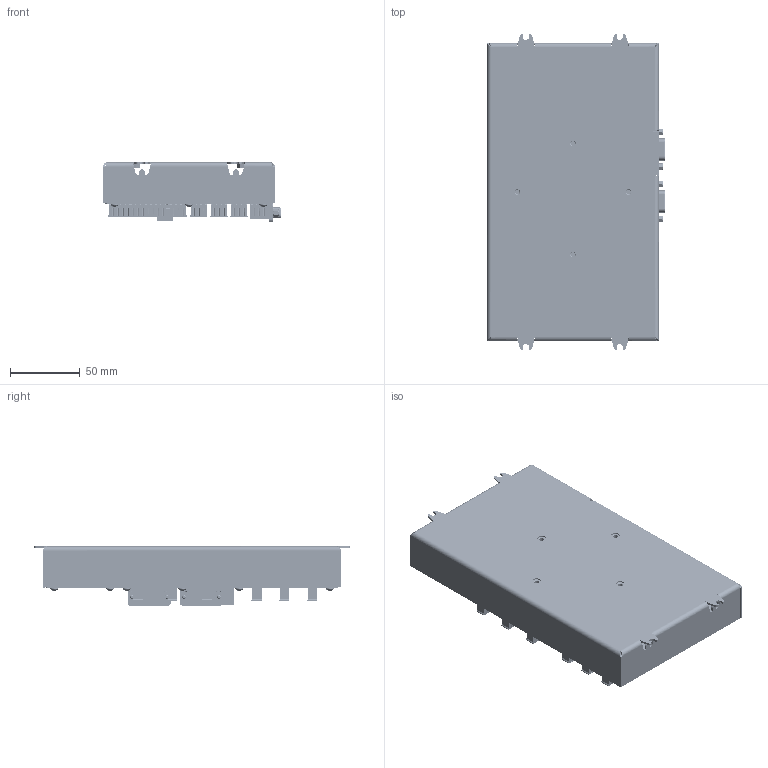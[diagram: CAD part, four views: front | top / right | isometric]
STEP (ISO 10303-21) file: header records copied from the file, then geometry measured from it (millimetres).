
FILE_DESCRIPTION (( 'STEP AP214' ), '1' );
FILE_NAME ('TIOB02_RevC2.step', '2013-02-28T10:01:38', ( '' ), ( '' ), 'SwSTEP 2.0', 'SolidWorks 2010', '' );
FILE_SCHEMA (( 'AUTOMOTIVE_DESIGN' ));
Length unit declared in the file: millimetre
Products named in the file (20): TIOB01_PCB; TIOB01-PCB; Con-Hdr-3_5-2; Con-B2B-Tyco-FH-0_8-60-H11; Diode-LED-Osram-P47; Con-Hdr-2-5-V; Con-Hdr-3_5-3; con-db-15hd-f-90d; TIOC; TIOC_PCB; Diode-LED-BiCol-90d-3x2; con-hdr-5-2-90d; con-lan-2rj45-2led; Extruded_3; TIOB01_Gehaeuse; Socket Button Head Screw_ISO_ISO 7380 - M3 x 6 --- 6N; Abstandsbolzen-I-A-UNC4-40x4.8-6.9; Weld nut 01_DIN_DIN 929-M4-N; Flush Stud_PMM_PEM FH4-M3-6 ---N; TIOB02_RevC2
Assembly tree (119 placements, depth 3):
  TIOB02_RevC2
    Socket Button Head Screw_ISO_ISO 7380 - M3 x 6 --- 6N  x15
    Flush Stud_PMM_PEM FH4-M3-6 ---N  x11
    Weld nut 01_DIN_DIN 929-M4-N  x4
    Abstandsbolzen-I-A-UNC4-40x4.8-6.9  x4
    TIOB01_PCB
      Diode-LED-Osram-P47  x38
      Con-Hdr-3_5-2  x8
      Con-Hdr-3_5-3  x24
      con-db-15hd-f-90d  x2
      Con-B2B-Tyco-FH-0_8-60-H11  x2
      TIOB01-PCB
      Con-Hdr-2-5-V
    TIOB01_Gehaeuse
    TIOC
      con-hdr-5-2-90d
      Diode-LED-BiCol-90d-3x2
      TIOC_PCB
      Extruded_3  x2
      con-lan-2rj45-2led
Bounding box: 127.83 x 227 x 42.56 mm (x, y, z)
Volume: 149841.2 mm3; surface area: 210161.9 mm2
Topology: 121 solids, 159 shells, 20915 faces, 56215 edges, 36439 vertices
Faces by surface type: plane 14802, cylinder 4915, bspline 636, cone 505, torus 42, sphere 15
Full cylindrical faces by diameter (mm): 1.3 x1, 1.7 x1, 1.93 x4, 2.261 x4, 2.3 x38, 2.73 x4, 2.75 x2, 3 x37, 3.12 x2, 3.2 x8, 3.3 x4, 3.5 x14, 4 x4, 4.175 x11, 5.7 x15, 6 x12
Entity records: 177801 total; most frequent: CARTESIAN_POINT 25975, ORIENTED_EDGE 22874, DIRECTION 22008, EDGE_CURVE 11437, LINE 8886, VECTOR 8886, VERTEX_POINT 7544, AXIS2_PLACEMENT_3D 6561
